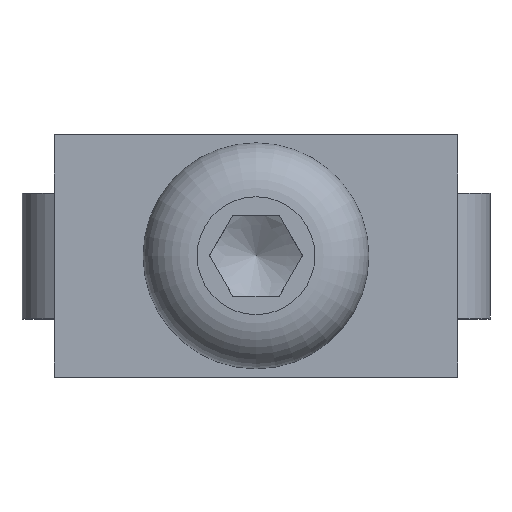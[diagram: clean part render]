
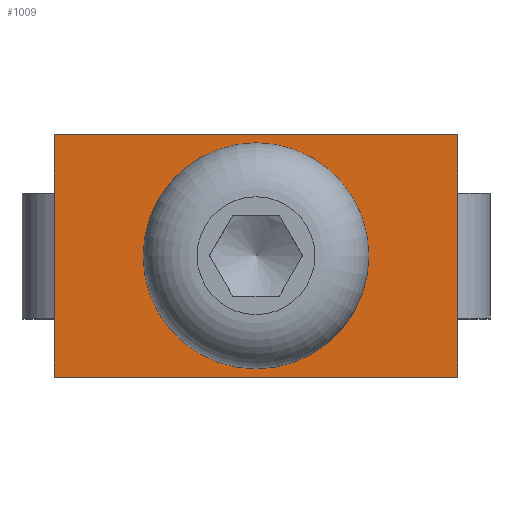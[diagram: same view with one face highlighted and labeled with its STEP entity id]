
A CAD part, top view. The second image highlights one B-rep face of the part: STEP entity #1009.
In plain terms, the highlighted planar face has unit normal (0, 0, 1).
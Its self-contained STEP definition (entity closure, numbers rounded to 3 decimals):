
#149=CARTESIAN_POINT('',(-12.5,-3.9,1.5));
#150=VERTEX_POINT('',#149);
#410=CARTESIAN_POINT('',(-12.5,3.9,1.5));
#411=VERTEX_POINT('',#410);
#421=CARTESIAN_POINT('',(-12.5,-3.9,1.5));
#422=DIRECTION('',(0.0,1.0,0.0));
#423=VECTOR('',#422,7.8);
#424=LINE('',#421,#423);
#425=EDGE_CURVE('',#150,#411,#424,.T.);
#473=CARTESIAN_POINT('',(-12.5,-7.5,1.5));
#474=VERTEX_POINT('',#473);
#481=CARTESIAN_POINT('',(-12.5,-7.5,1.5));
#482=DIRECTION('',(0.0,1.0,0.0));
#483=VECTOR('',#482,3.6);
#484=LINE('',#481,#483);
#485=EDGE_CURVE('',#474,#150,#484,.T.);
#506=CARTESIAN_POINT('',(12.5,-3.9,1.5));
#507=VERTEX_POINT('',#506);
#733=CARTESIAN_POINT('',(12.5,3.9,1.5));
#734=VERTEX_POINT('',#733);
#742=CARTESIAN_POINT('',(12.5,3.9,1.5));
#743=DIRECTION('',(0.0,-1.0,0.0));
#744=VECTOR('',#743,7.8);
#745=LINE('',#742,#744);
#746=EDGE_CURVE('',#734,#507,#745,.T.);
#850=CARTESIAN_POINT('',(12.5,-7.5,1.5));
#851=VERTEX_POINT('',#850);
#852=CARTESIAN_POINT('',(12.5,-3.9,1.5));
#853=DIRECTION('',(0.0,-1.0,0.0));
#854=VECTOR('',#853,3.6);
#855=LINE('',#852,#854);
#856=EDGE_CURVE('',#507,#851,#855,.T.);
#897=CARTESIAN_POINT('',(4.1,0.0,1.5));
#898=VERTEX_POINT('',#897);
#899=CARTESIAN_POINT('',(0.0,0.0,1.5));
#900=DIRECTION('',(0.0,0.0,-1.0));
#901=DIRECTION('',(1.0,0.0,0.0));
#902=AXIS2_PLACEMENT_3D('',#899,#900,#901);
#903=CIRCLE('',#902,4.1);
#904=EDGE_CURVE('',#898,#898,#903,.T.);
#916=CARTESIAN_POINT('',(12.5,7.5,1.5));
#917=VERTEX_POINT('',#916);
#924=CARTESIAN_POINT('',(12.5,7.5,1.5));
#925=DIRECTION('',(0.0,-1.0,0.0));
#926=VECTOR('',#925,3.6);
#927=LINE('',#924,#926);
#928=EDGE_CURVE('',#917,#734,#927,.T.);
#938=CARTESIAN_POINT('',(12.5,-7.5,1.5));
#939=DIRECTION('',(-1.0,0.0,0.0));
#940=VECTOR('',#939,25.0);
#941=LINE('',#938,#940);
#942=EDGE_CURVE('',#851,#474,#941,.T.);
#956=CARTESIAN_POINT('',(-12.5,7.5,1.5));
#957=VERTEX_POINT('',#956);
#958=CARTESIAN_POINT('',(-12.5,3.9,1.5));
#959=DIRECTION('',(0.0,1.0,0.0));
#960=VECTOR('',#959,3.6);
#961=LINE('',#958,#960);
#962=EDGE_CURVE('',#411,#957,#961,.T.);
#979=CARTESIAN_POINT('',(-12.5,7.5,1.5));
#980=DIRECTION('',(1.0,0.0,0.0));
#981=VECTOR('',#980,25.0);
#982=LINE('',#979,#981);
#983=EDGE_CURVE('',#957,#917,#982,.T.);
#991=CARTESIAN_POINT('',(0.0,0.,1.5));
#992=DIRECTION('',(0.0,0.0,1.0));
#993=DIRECTION('',(1.0,0.0,0.0));
#994=AXIS2_PLACEMENT_3D('',#991,#992,#993);
#995=PLANE('',#994);
#996=ORIENTED_EDGE('',*,*,#928,.F.);
#997=ORIENTED_EDGE('',*,*,#983,.F.);
#998=ORIENTED_EDGE('',*,*,#962,.F.);
#999=ORIENTED_EDGE('',*,*,#425,.F.);
#1000=ORIENTED_EDGE('',*,*,#485,.F.);
#1001=ORIENTED_EDGE('',*,*,#942,.F.);
#1002=ORIENTED_EDGE('',*,*,#856,.F.);
#1003=ORIENTED_EDGE('',*,*,#746,.F.);
#1004=EDGE_LOOP('',(#996,#997,#998,#999,#1000,#1001,#1002,#1003));
#1005=FACE_OUTER_BOUND('',#1004,.T.);
#1006=ORIENTED_EDGE('',*,*,#904,.T.);
#1007=EDGE_LOOP('',(#1006));
#1008=FACE_BOUND('',#1007,.T.);
#1009=ADVANCED_FACE('',(#1005,#1008),#995,.T.);
